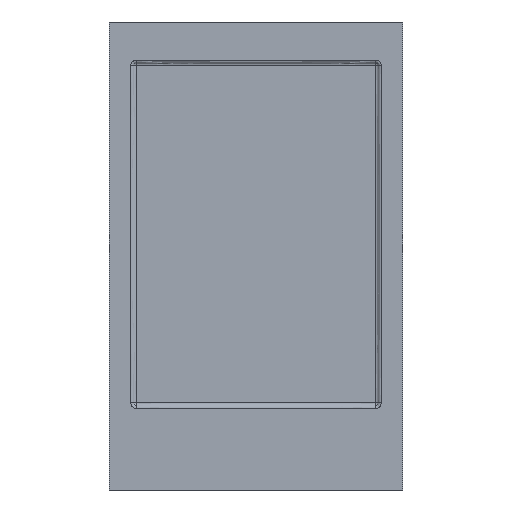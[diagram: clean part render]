
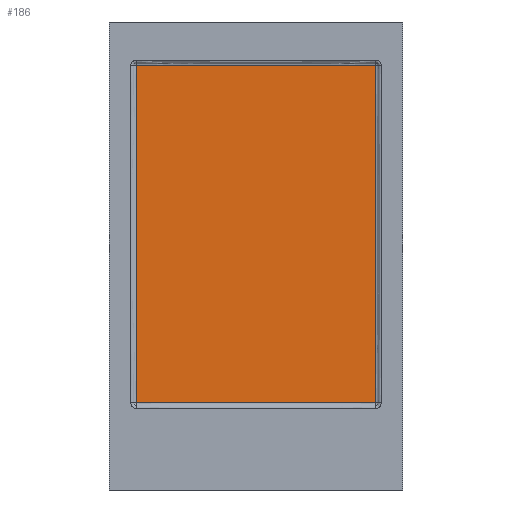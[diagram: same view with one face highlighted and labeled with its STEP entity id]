
A CAD part, front view. The second image highlights one B-rep face of the part: STEP entity #186.
In plain terms, the highlighted planar face has unit normal (0, -1, 0).
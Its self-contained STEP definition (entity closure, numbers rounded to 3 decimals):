
#186=ADVANCED_FACE('',(#286),#1584,.T.);
#286=FACE_OUTER_BOUND('',#396,.T.);
#396=EDGE_LOOP('',(#878,#879,#880,#881));
#878=ORIENTED_EDGE('',*,*,#1128,.F.);
#879=ORIENTED_EDGE('',*,*,#1125,.F.);
#880=ORIENTED_EDGE('',*,*,#1122,.F.);
#881=ORIENTED_EDGE('',*,*,#1118,.F.);
#1118=EDGE_CURVE('',#1498,#1499,#1334,.T.);
#1122=EDGE_CURVE('',#1499,#1502,#1338,.T.);
#1125=EDGE_CURVE('',#1502,#1504,#1341,.T.);
#1128=EDGE_CURVE('',#1504,#1498,#1344,.T.);
#1334=B_SPLINE_CURVE_WITH_KNOTS('',1,(#2930,#2931),.UNSPECIFIED.,.F.,.F.,
(2,2),(-4.,-3.),.UNSPECIFIED.);
#1338=B_SPLINE_CURVE_WITH_KNOTS('',1,(#2938,#2939),.UNSPECIFIED.,.F.,.F.,
(2,2),(-3.,-2.),.UNSPECIFIED.);
#1341=B_SPLINE_CURVE_WITH_KNOTS('',1,(#2944,#2945),.UNSPECIFIED.,.F.,.F.,
(2,2),(-2.,-1.),.UNSPECIFIED.);
#1344=B_SPLINE_CURVE_WITH_KNOTS('',1,(#2950,#2951),.UNSPECIFIED.,.F.,.F.,
(2,2),(-1.,0.),.UNSPECIFIED.);
#1498=VERTEX_POINT('',#2922);
#1499=VERTEX_POINT('',#2923);
#1502=VERTEX_POINT('',#2926);
#1504=VERTEX_POINT('',#2928);
#1584=PLANE('',#1752);
#1752=AXIS2_PLACEMENT_3D('',#2920,#1836,$);
#1836=DIRECTION('',(0.,-1.,0.));
#2920=CARTESIAN_POINT('',(-2267.483,-683.721,-799.299));
#2922=CARTESIAN_POINT('',(-2707.483,-683.721,-799.299));
#2923=CARTESIAN_POINT('',(-2707.483,-683.721,-179.299));
#2926=CARTESIAN_POINT('',(-2267.483,-683.721,-179.299));
#2928=CARTESIAN_POINT('',(-2267.483,-683.721,-799.299));
#2930=CARTESIAN_POINT('',(-2707.483,-683.721,-799.299));
#2931=CARTESIAN_POINT('',(-2707.483,-683.721,-179.299));
#2938=CARTESIAN_POINT('',(-2707.483,-683.721,-179.299));
#2939=CARTESIAN_POINT('',(-2267.483,-683.721,-179.299));
#2944=CARTESIAN_POINT('',(-2267.483,-683.721,-179.299));
#2945=CARTESIAN_POINT('',(-2267.483,-683.721,-799.299));
#2950=CARTESIAN_POINT('',(-2267.483,-683.721,-799.299));
#2951=CARTESIAN_POINT('',(-2707.483,-683.721,-799.299));
